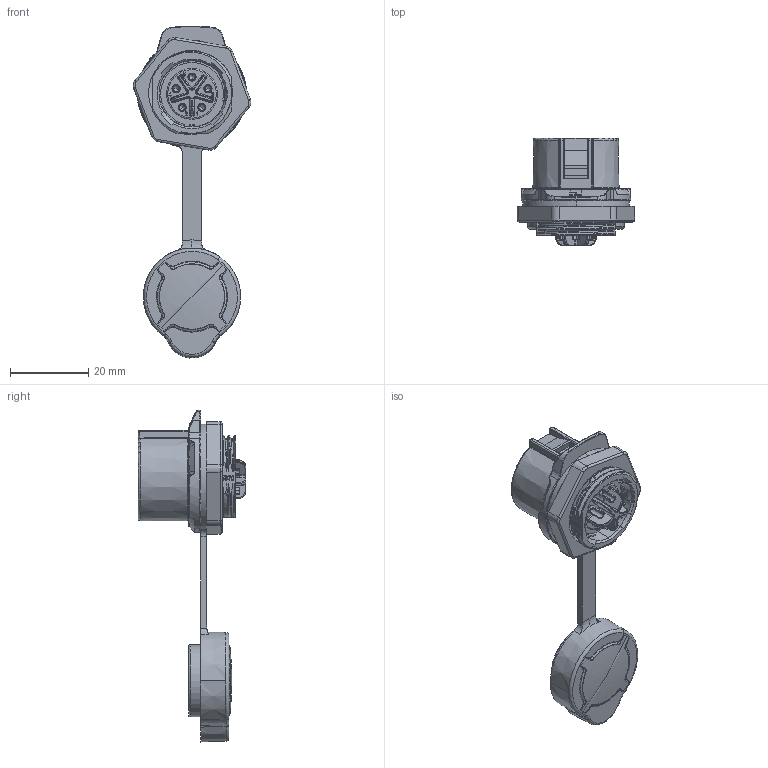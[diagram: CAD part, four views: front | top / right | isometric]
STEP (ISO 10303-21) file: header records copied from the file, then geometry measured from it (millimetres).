
FILE_DESCRIPTION (( 'STEP AP203' ), '1' );
FILE_NAME ('LP-20-J05SX-02-171.STEP', '2023-11-27T09:43:05', ( 'Windows 蚚誧' ), ( 'Organization' ), 'SwSTEP 2.0', 'SolidWorks 2017', '' );
FILE_SCHEMA (( 'CONFIG_CONTROL_DESIGN' ));
Length unit declared in the file: millimetre
Products named in the file (1): LP-20-J05SX-02-171
Bounding box: 30.19 x 27.6 x 85.11 mm (x, y, z)
Volume: 10899.6 mm3; surface area: 11642.4 mm2
Topology: 1 solids, 3 shells, 1330 faces, 3604 edges, 2250 vertices
Faces by surface type: plane 407, bspline 389, cylinder 334, torus 111, cone 85, sphere 4
Entity records: 68088 total; most frequent: CARTESIAN_POINT 37818, ORIENTED_EDGE 7138, DIRECTION 5265, EDGE_CURVE 3569, VERTEX_POINT 2251, AXIS2_PLACEMENT_3D 1952, EDGE_LOOP 1412, LINE 1361
